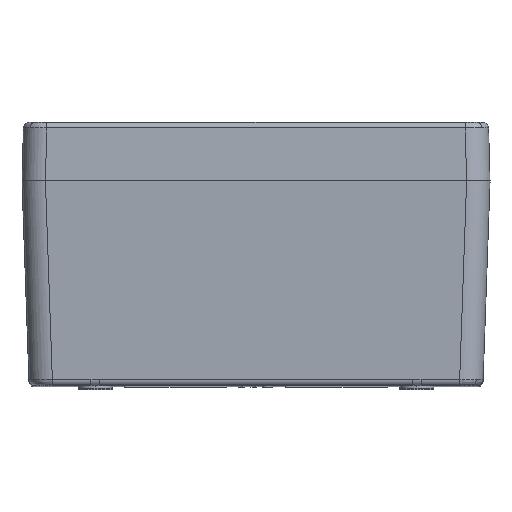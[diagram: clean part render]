
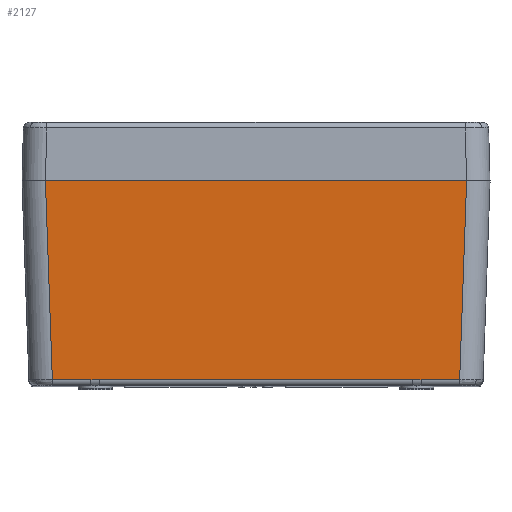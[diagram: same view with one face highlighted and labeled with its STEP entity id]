
A CAD part, top view. The second image highlights one B-rep face of the part: STEP entity #2127.
In plain terms, the highlighted planar face has unit normal (0, -0.035, 0.999).
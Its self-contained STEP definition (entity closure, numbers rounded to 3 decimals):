
#33 = VERTEX_POINT ( 'NONE', #8851 ) ;
#40 = EDGE_CURVE ( 'NONE', #18875, #16086, #2806, .T. ) ;
#416 = EDGE_CURVE ( 'NONE', #18875, #7219, #9594, .T. ) ;
#533 = CARTESIAN_POINT ( 'NONE',  ( -80., 0., 130. ) ) ;
#671 = EDGE_CURVE ( 'NONE', #11796, #7219, #17740, .T. ) ;
#1623 = VECTOR ( 'NONE', #8692, 1000. ) ;
#1700 = CARTESIAN_POINT ( 'NONE',  ( 55., -68.078, 127.623 ) ) ;
#1746 = AXIS2_PLACEMENT_3D ( 'NONE', #533, #12471, #3505 ) ;
#2077 = EDGE_CURVE ( 'NONE', #16086, #4631, #9573, .T. ) ;
#2127 = ADVANCED_FACE ( 'NONE', ( #15629 ), #10956, .T. ) ;
#2277 = VECTOR ( 'NONE', #7094, 1000. ) ;
#2388 = CARTESIAN_POINT ( 'NONE',  ( -55.472, -68.078, 127.623 ) ) ;
#2806 = LINE ( 'NONE', #8791, #18239 ) ;
#3196 = CARTESIAN_POINT ( 'NONE',  ( 55.945, -68.07, 127.623 ) ) ;
#3505 = DIRECTION ( 'NONE',  ( 0., -0.999, -0.035 ) ) ;
#3871 = CARTESIAN_POINT ( 'NONE',  ( -54.528, -68.078, 127.623 ) ) ;
#4087 = CARTESIAN_POINT ( 'NONE',  ( -80., -68.07, 127.623 ) ) ;
#4616 = CARTESIAN_POINT ( 'NONE',  ( 54.055, -68.07, 127.623 ) ) ;
#4631 = VERTEX_POINT ( 'NONE', #8582 ) ;
#5042 = ORIENTED_EDGE ( 'NONE', *, *, #671, .T. ) ;
#5080 = CARTESIAN_POINT ( 'NONE',  ( 69.628, -68.07, 127.623 ) ) ;
#5092 = VECTOR ( 'NONE', #10768, 1000. ) ;
#5353 = CARTESIAN_POINT ( 'NONE',  ( -53.583, -68.07, 127.623 ) ) ;
#6095 = LINE ( 'NONE', #16788, #9650 ) ;
#6268 = VECTOR ( 'NONE', #13468, 1000. ) ;
#7094 = DIRECTION ( 'NONE',  ( 1., 0., 0. ) ) ;
#7200 = EDGE_LOOP ( 'NONE', ( #13037, #14011, #17065, #15530, #10525, #13886, #5042, #12149 ) ) ;
#7219 = VERTEX_POINT ( 'NONE', #9961 ) ;
#8521 = B_SPLINE_CURVE_WITH_KNOTS ( 'NONE', 3,
 ( #13544, #4616, #10653, #1700, #12173, #3196, #13679 ),
 .UNSPECIFIED., .F., .F.,
 ( 4, 3, 4 ),
 ( 0., 0.001, 0.003 ),
 .UNSPECIFIED. ) ;
#8582 = CARTESIAN_POINT ( 'NONE',  ( -56.417, -68.07, 127.623 ) ) ;
#8692 = DIRECTION ( 'NONE',  ( 1., 0., 0. ) ) ;
#8791 = CARTESIAN_POINT ( 'NONE',  ( -72.015, 0.279, 130.01 ) ) ;
#8851 = CARTESIAN_POINT ( 'NONE',  ( 53.583, -68.07, 127.623 ) ) ;
#8878 = CARTESIAN_POINT ( 'NONE',  ( -80., 0., 130. ) ) ;
#8947 = DIRECTION ( 'NONE',  ( 0.035, -0.999, -0.035 ) ) ;
#9314 = VERTEX_POINT ( 'NONE', #11619 ) ;
#9573 = LINE ( 'NONE', #12269, #5092 ) ;
#9594 = LINE ( 'NONE', #8878, #1623 ) ;
#9650 = VECTOR ( 'NONE', #18315, 1000. ) ;
#9711 = CARTESIAN_POINT ( 'NONE',  ( -55.945, -68.07, 127.623 ) ) ;
#9961 = CARTESIAN_POINT ( 'NONE',  ( 72.005, 0., 130. ) ) ;
#10294 = CARTESIAN_POINT ( 'NONE',  ( -72.005, 0., 130. ) ) ;
#10525 = ORIENTED_EDGE ( 'NONE', *, *, #16603, .T. ) ;
#10653 = CARTESIAN_POINT ( 'NONE',  ( 54.528, -68.078, 127.623 ) ) ;
#10768 = DIRECTION ( 'NONE',  ( 1., 0., 0. ) ) ;
#10956 = PLANE ( 'NONE',  #1746 ) ;
#11174 = LINE ( 'NONE', #4087, #2277 ) ;
#11619 = CARTESIAN_POINT ( 'NONE',  ( 56.417, -68.07, 127.623 ) ) ;
#11680 = VERTEX_POINT ( 'NONE', #15358 ) ;
#11796 = VERTEX_POINT ( 'NONE', #5080 ) ;
#12149 = ORIENTED_EDGE ( 'NONE', *, *, #416, .F. ) ;
#12173 = CARTESIAN_POINT ( 'NONE',  ( 55.472, -68.078, 127.623 ) ) ;
#12269 = CARTESIAN_POINT ( 'NONE',  ( -80., -68.07, 127.623 ) ) ;
#12471 = DIRECTION ( 'NONE',  ( 0., -0.035, 0.999 ) ) ;
#12849 = CARTESIAN_POINT ( 'NONE',  ( -55., -68.078, 127.623 ) ) ;
#13037 = ORIENTED_EDGE ( 'NONE', *, *, #40, .T. ) ;
#13468 = DIRECTION ( 'NONE',  ( 0.035, 0.999, 0.035 ) ) ;
#13544 = CARTESIAN_POINT ( 'NONE',  ( 53.583, -68.07, 127.623 ) ) ;
#13679 = CARTESIAN_POINT ( 'NONE',  ( 56.417, -68.07, 127.623 ) ) ;
#13838 = CARTESIAN_POINT ( 'NONE',  ( -69.628, -68.07, 127.623 ) ) ;
#13878 = CARTESIAN_POINT ( 'NONE',  ( 71.82, -5.295, 129.815 ) ) ;
#13886 = ORIENTED_EDGE ( 'NONE', *, *, #15248, .T. ) ;
#14011 = ORIENTED_EDGE ( 'NONE', *, *, #2077, .T. ) ;
#14205 = CARTESIAN_POINT ( 'NONE',  ( -56.417, -68.07, 127.623 ) ) ;
#14347 = CARTESIAN_POINT ( 'NONE',  ( -54.055, -68.07, 127.623 ) ) ;
#15248 = EDGE_CURVE ( 'NONE', #9314, #11796, #6095, .T. ) ;
#15358 = CARTESIAN_POINT ( 'NONE',  ( -53.583, -68.07, 127.623 ) ) ;
#15530 = ORIENTED_EDGE ( 'NONE', *, *, #18741, .T. ) ;
#15629 = FACE_OUTER_BOUND ( 'NONE', #7200, .T. ) ;
#16086 = VERTEX_POINT ( 'NONE', #13838 ) ;
#16603 = EDGE_CURVE ( 'NONE', #33, #9314, #8521, .T. ) ;
#16788 = CARTESIAN_POINT ( 'NONE',  ( -80., -68.07, 127.623 ) ) ;
#17065 = ORIENTED_EDGE ( 'NONE', *, *, #19109, .T. ) ;
#17740 = LINE ( 'NONE', #13878, #6268 ) ;
#17901 = B_SPLINE_CURVE_WITH_KNOTS ( 'NONE', 3,
 ( #14205, #9711, #2388, #12849, #3871, #14347, #5353 ),
 .UNSPECIFIED., .F., .F.,
 ( 4, 3, 4 ),
 ( 0., 0.001, 0.003 ),
 .UNSPECIFIED. ) ;
#18239 = VECTOR ( 'NONE', #8947, 1000. ) ;
#18315 = DIRECTION ( 'NONE',  ( 1., 0., 0. ) ) ;
#18741 = EDGE_CURVE ( 'NONE', #11680, #33, #11174, .T. ) ;
#18875 = VERTEX_POINT ( 'NONE', #10294 ) ;
#19109 = EDGE_CURVE ( 'NONE', #4631, #11680, #17901, .T. ) ;
